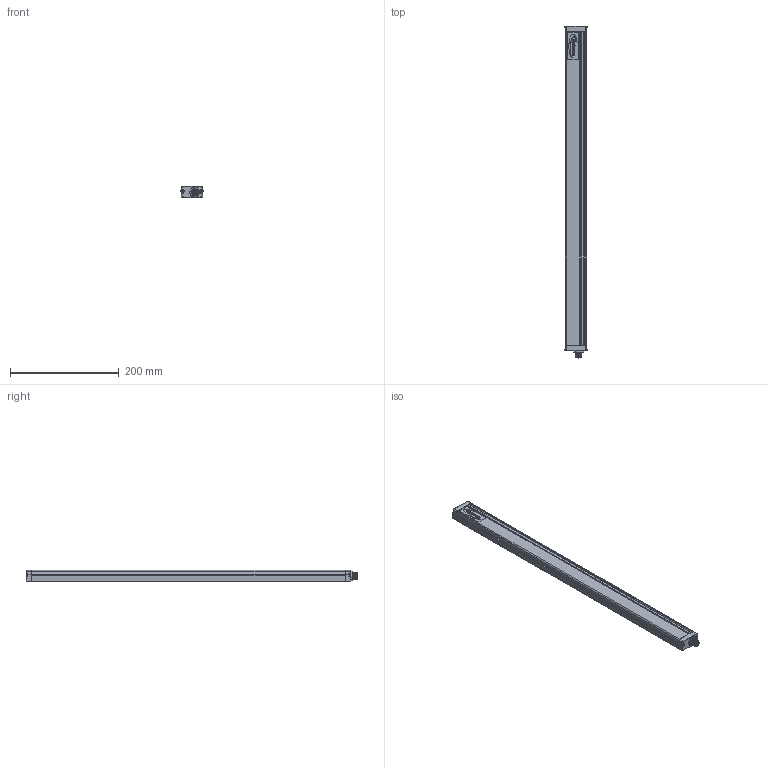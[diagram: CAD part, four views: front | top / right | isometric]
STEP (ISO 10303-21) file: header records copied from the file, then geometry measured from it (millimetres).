
FILE_DESCRIPTION(/* description */ (''),/* implementation_level */ '2;1');
FILE_NAME(/* name */ 'C:\Users\andre\SynologyDrive\Optoscan\Libreria Componenti\00 - Barriere\Polaris sorgente\Barriera Polaris RX\Polaris_580_RX.stp',/* time_stamp */ '2021-06-04T11:40:54+02:00',/* author */ ('andre'),/* organization */ (''),/* preprocessor_version */ 'ST-DEVELOPER v18',/* originating_system */ 'Autodesk Inventor 2020',/* authorisation */ '');
FILE_SCHEMA (('AUTOMOTIVE_DESIGN { 1 0 10303 214 3 1 1 }'));
Length unit declared in the file: millimetre
Products named in the file (1): Polaris_580_RX
Bounding box: 40.5 x 609.3 x 20.75 mm (x, y, z)
Volume: 123590.7 mm3; surface area: 159551.8 mm2
Topology: 1 solids, 1 shells, 700 faces, 1926 edges, 1237 vertices
Faces by surface type: plane 319, cylinder 199, bspline 94, torus 70, sphere 10, cone 8
Full cylindrical faces by diameter (mm): 1 x8, 2.459 x4, 2.5 x4, 3 x4, 3.5 x4, 5.5 x4, 8 x1, 10.5 x2, 11.75 x9, 15.7 x1, 17.5 x1
Entity records: 28472 total; most frequent: CARTESIAN_POINT 10246, ORIENTED_EDGE 3826, DIRECTION 3447, EDGE_CURVE 1913, VERTEX_POINT 1237, AXIS2_PLACEMENT_3D 1211, LINE 1025, VECTOR 1025
